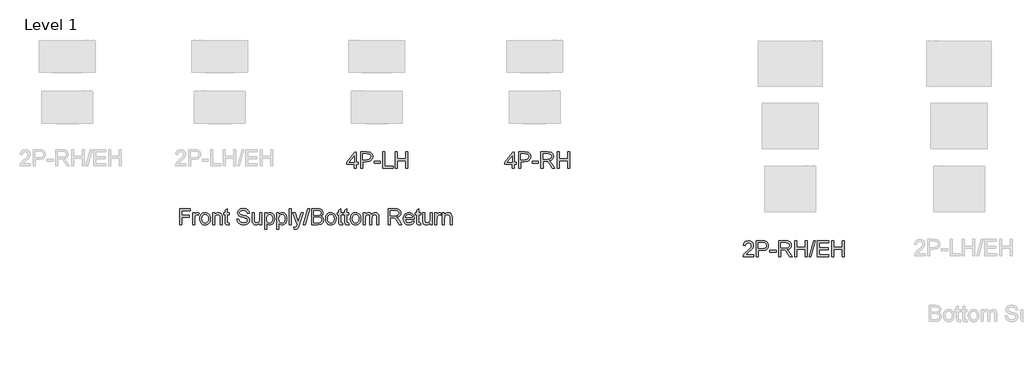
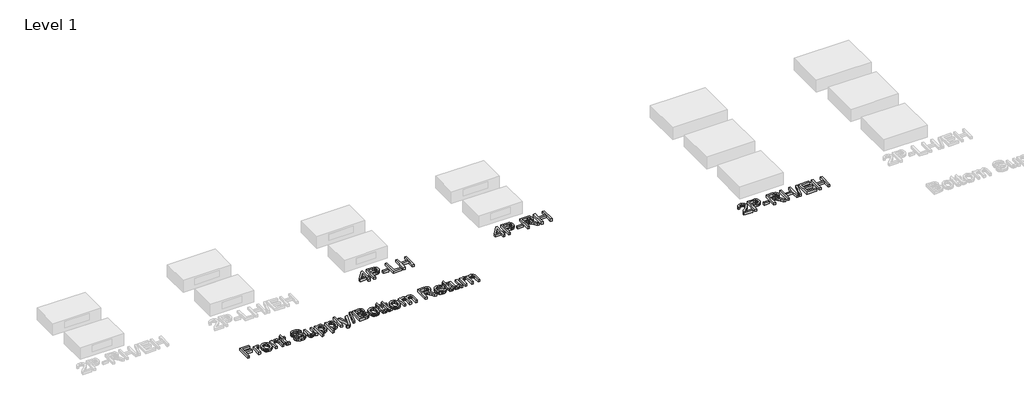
# One storey, part 2 of 3: 4 proxies.
"""IFC4 building model written with IfcOpenShell, lengths in millimetres."""

from ifc_helpers import new_model, si_unit, origin, origin_with_axes, place, context, project, spatial, polyline, outline, extrude, element, save

model = new_model("IFC4")

# Units and contexts
model_context = context("Model", 3, world=origin())
ifc_project = project(units=[si_unit("LENGTHUNIT", "METRE", prefix="MILLI")], contexts=[model_context])

# Site, building, storey
site = spatial("IfcSite", under=ifc_project)
building = spatial("IfcBuilding", under=site)
storey = spatial("IfcBuildingStorey", under=building, Name="Level 1", Elevation=0.0)

# Proxies
placement = place(None, origin())
element("IfcBuildingElementProxy", 1, Name="24\" Arial", ObjectType="24\" Arial", at=placement, inside=storey, context=model_context, shape_type="SweptSolid", body=[
    extrude(outline(polyline([(-5761.3877617, -2953.7595515), (-5761.3877617, -2882.3766388), (-5899.3947262, -2882.3766388), (-5899.3947262, -2844.305752), (-5751.87004, -2653.9513182), (-5723.3168749, -2653.9513182), (-5723.3168749, -2844.305752), (-5685.2459881, -2844.305752), (-5685.2459881, -2882.3766388), (-5723.3168749, -2882.3766388), (-5723.3168749, -2953.7595515), (-5761.3877617, -2953.7595515)]), holes=[polyline([(-5761.3877617, -2844.305752), (-5761.3877617, -2726.6726605), (-5852.5496897, -2844.305752), (-5761.3877617, -2844.305752)])]), origin_with_axes(), (0.0, 0.0, 1.0), 50.8),
    extrude(outline(polyline([(-5637.6573797, -2953.7595515), (-5637.6573797, -2649.1924574), (-5524.783149, -2649.1924574), (-5479.2765422, -2652.0923882), (-5458.9863211, -2657.5111692), (-5442.2838349, -2666.3317922), (-5428.8344762, -2678.953927), (-5418.3036376, -2695.7772436), (-5411.4999538, -2715.6213216), (-5409.2320591, -2737.3057402), (-5410.7633527, -2756.0019289), (-5415.3572336, -2773.2016789), (-5423.0137016, -2788.9049902), (-5433.7327568, -2803.1118628), (-5448.4485115, -2814.8881845), (-5468.0950781, -2823.2998428), (-5492.6724566, -2828.3468378), (-5522.180647, -2830.0291695), (-5599.5864929, -2830.0291695), (-5599.5864929, -2953.7595515), (-5637.6573797, -2953.7595515)]), holes=[polyline([(-5599.5864929, -2791.9582827), (-5519.949931, -2791.9582827), (-5486.1917619, -2788.4634943), (-5463.8846017, -2777.979129), (-5451.4483598, -2761.1558123), (-5447.3029459, -2738.6441698), (-5449.7474389, -2721.5420137), (-5457.0809178, -2707.1167167), (-5468.3925069, -2696.2605654), (-5482.7713306, -2689.8658462), (-5520.8422174, -2687.2633442), (-5599.5864929, -2687.2633442), (-5599.5864929, -2791.9582827)])]), origin_with_axes(), (0.0, 0.0, 1.0), 50.8),
    extrude(outline(polyline([(-5380.6788941, -2863.3411954), (-5380.6788941, -2825.2703087), (-5261.707373, -2825.2703087), (-5261.707373, -2863.3411954), (-5380.6788941, -2863.3411954)])), origin_with_axes(), (0.0, 0.0, 1.0), 50.8),
    extrude(outline(polyline([(-5214.1187645, -2953.7595515), (-5214.1187645, -2649.1924574), (-5176.0478777, -2649.1924574), (-5176.0478777, -2915.6886647), (-5023.7643307, -2915.6886647), (-5023.7643307, -2953.7595515), (-5214.1187645, -2953.7595515)])), origin_with_axes(), (0.0, 0.0, 1.0), 50.8),
    extrude(outline(polyline([(-4980.9345831, -2953.7595515), (-4980.9345831, -2649.1924574), (-4942.8636964, -2649.1924574), (-4942.8636964, -2772.9228394), (-4781.0624276, -2772.9228394), (-4781.0624276, -2649.1924574), (-4742.9915409, -2649.1924574), (-4742.9915409, -2953.7595515), (-4781.0624276, -2953.7595515), (-4781.0624276, -2810.9937261), (-4942.8636964, -2810.9937261), (-4942.8636964, -2953.7595515), (-4980.9345831, -2953.7595515)])), origin_with_axes(), (0.0, 0.0, 1.0), 50.8),
])
element("IfcBuildingElementProxy", 2, Name="24\" Arial", ObjectType="24\" Arial", at=placement, inside=storey, context=model_context, shape_type="SweptSolid", body=[
    extrude(outline(polyline([(-2764.1877617, -2953.7595515), (-2764.1877617, -2882.3766388), (-2902.1947262, -2882.3766388), (-2902.1947262, -2844.305752), (-2754.67004, -2653.9513182), (-2726.1168749, -2653.9513182), (-2726.1168749, -2844.305752), (-2688.0459881, -2844.305752), (-2688.0459881, -2882.3766388), (-2726.1168749, -2882.3766388), (-2726.1168749, -2953.7595515), (-2764.1877617, -2953.7595515)]), holes=[polyline([(-2764.1877617, -2844.305752), (-2764.1877617, -2726.6726605), (-2855.3496897, -2844.305752), (-2764.1877617, -2844.305752)])]), origin_with_axes(), (0.0, 0.0, 1.0), 50.8),
    extrude(outline(polyline([(-2640.4573797, -2953.7595515), (-2640.4573797, -2649.1924574), (-2527.583149, -2649.1924574), (-2482.0765422, -2652.0923882), (-2461.7863211, -2657.5111692), (-2445.0838349, -2666.3317922), (-2431.6344762, -2678.953927), (-2421.1036376, -2695.7772436), (-2414.2999538, -2715.6213216), (-2412.0320591, -2737.3057402), (-2413.5633527, -2756.0019289), (-2418.1572336, -2773.2016789), (-2425.8137016, -2788.9049902), (-2436.5327568, -2803.1118628), (-2451.2485115, -2814.8881845), (-2470.8950781, -2823.2998428), (-2495.4724566, -2828.3468378), (-2524.980647, -2830.0291695), (-2602.3864929, -2830.0291695), (-2602.3864929, -2953.7595515), (-2640.4573797, -2953.7595515)]), holes=[polyline([(-2602.3864929, -2791.9582827), (-2522.749931, -2791.9582827), (-2488.9917619, -2788.4634943), (-2466.6846017, -2777.979129), (-2454.2483598, -2761.1558123), (-2450.1029459, -2738.6441698), (-2452.5474389, -2721.5420137), (-2459.8809178, -2707.1167167), (-2471.1925069, -2696.2605654), (-2485.5713306, -2689.8658462), (-2523.6422174, -2687.2633442), (-2602.3864929, -2687.2633442), (-2602.3864929, -2791.9582827)])]), origin_with_axes(), (0.0, 0.0, 1.0), 50.8),
    extrude(outline(polyline([(-2383.4788941, -2863.3411954), (-2383.4788941, -2825.2703087), (-2264.507373, -2825.2703087), (-2264.507373, -2863.3411954), (-2383.4788941, -2863.3411954)])), origin_with_axes(), (0.0, 0.0, 1.0), 50.8),
    extrude(outline(polyline([(-2216.9187645, -2953.7595515), (-2216.9187645, -2649.1924574), (-2085.6783053, -2649.1924574), (-2050.4051082, -2651.2465751), (-2024.7425793, -2657.4089281), (-2005.9859754, -2668.7855798), (-1991.4305534, -2686.4825935), (-1982.08943, -2708.4272624), (-1978.9757223, -2732.5468794), (-1984.1342531, -2762.5500099), (-1999.6098455, -2787.4224935), (-2011.3327229, -2797.5583094), (-2025.867232, -2805.658597), (-2063.3711451, -2815.752587), (-2041.7331997, -2832.0368139), (-2010.8749614, -2871.2230587), (-1960.0889933, -2953.7595515), (-2004.3315277, -2953.7595515), (-2043.9639157, -2890.6302881), (-2072.5914379, -2848.8415413), (-2092.7050607, -2829.0997045), (-2110.8110391, -2821.8498774), (-2132.8951277, -2820.5114478), (-2178.8478777, -2820.5114478), (-2178.8478777, -2953.7595515), (-2216.9187645, -2953.7595515)]), holes=[polyline([(-2178.8478777, -2782.4405611), (-2093.6345257, -2782.4405611), (-2069.1617121, -2781.0928368), (-2050.1727419, -2777.049664), (-2035.8775701, -2770.0414978), (-2025.4861513, -2759.7987934), (-2019.1564946, -2747.4090249), (-2017.046609, -2733.9596662), (-2021.0711925, -2715.3889553), (-2033.144943, -2700.4245687), (-2053.9184859, -2690.5536503), (-2084.0424469, -2687.2633442), (-2178.8478777, -2687.2633442), (-2178.8478777, -2782.4405611)])]), origin_with_axes(), (0.0, 0.0, 1.0), 50.8),
    extrude(outline(polyline([(-1912.3516704, -2953.7595515), (-1912.3516704, -2649.1924574), (-1874.2807837, -2649.1924574), (-1874.2807837, -2772.9228394), (-1712.479515, -2772.9228394), (-1712.479515, -2649.1924574), (-1674.4086282, -2649.1924574), (-1674.4086282, -2953.7595515), (-1712.479515, -2953.7595515), (-1712.479515, -2810.9937261), (-1874.2807837, -2810.9937261), (-1874.2807837, -2953.7595515), (-1912.3516704, -2953.7595515)])), origin_with_axes(), (0.0, 0.0, 1.0), 50.8),
])
element("IfcBuildingElementProxy", 3, Name="24\" Arial", ObjectType="24\" Arial", at=placement, inside=storey, context=model_context, shape_type="SweptSolid", body=[
    extrude(outline(polyline([(-9072.917714, -4028.4277755), (-9072.917714, -3723.8606814), (-8868.2866976, -3723.8606814), (-8868.2866976, -3761.9315682), (-9034.8468272, -3761.9315682), (-9034.8468272, -3852.3499242), (-8892.0810019, -3852.3499242), (-8892.0810019, -3890.420811), (-9034.8468272, -3890.420811), (-9034.8468272, -4028.4277755), (-9072.917714, -4028.4277755)])), origin_with_axes(), (0.0, 0.0, 1.0), 50.8),
    extrude(outline(polyline([(-8820.6980892, -4028.4277755), (-8820.6980892, -3804.7613158), (-8787.3860633, -3804.7613158), (-8787.3860633, -3837.8502701), (-8775.0799466, -3818.6661123), (-8763.7404735, -3807.3638178), (-8752.3638218, -3801.8427956), (-8739.9461692, -3800.0024549), (-8720.9850831, -3802.9395644), (-8701.7265681, -3811.7508926), (-8714.4416494, -3845.8808478), (-8727.8259455, -3840.0252182), (-8741.2102416, -3838.0733417), (-8752.5775987, -3839.950861), (-8762.7366513, -3845.583419), (-8770.9438273, -3854.5434616), (-8776.4555548, -3866.4034352), (-8781.0842905, -3887.6695946), (-8782.6272024, -3910.8690412), (-8782.6272024, -4028.4277755), (-8820.6980892, -4028.4277755)])), origin_with_axes(), (0.0, 0.0, 1.0), 50.8),
    extrude(outline(polyline([(-8687.4499855, -3916.5945456), (-8685.3912205, -3887.6277686), (-8679.2149256, -3862.6669858), (-8668.9211006, -3841.7121972), (-8654.5097456, -3824.7634028), (-8640.0007968, -3813.9304881), (-8623.9861147, -3806.1926919), (-8606.4656993, -3801.5500142), (-8587.4395506, -3800.0024549), (-8566.4359651, -3801.8869452), (-8547.4446713, -3807.5404161), (-8530.4656692, -3816.9628677), (-8515.4989589, -3830.1542998), (-8503.283465, -3846.6685694), (-8494.5581123, -3866.0595331), (-8489.3229006, -3888.327191), (-8487.5778301, -3913.4715432), (-8490.6636539, -3951.9328053), (-8499.9211254, -3981.210953), (-8515.0806997, -4003.1370326), (-8535.8728319, -4019.54209), (-8560.5687172, -4029.7754997), (-8587.4395506, -4033.1866363), (-8608.7498596, -4031.309117), (-8627.9177517, -4025.6765591), (-8644.943227, -4016.2889625), (-8659.8262855, -4003.1463272), (-8671.9116543, -3986.471725), (-8680.5440605, -3966.4882273), (-8685.7235043, -3943.1958342), (-8687.4499855, -3916.5945456)]), holes=[polyline([(-8649.3790988, -3916.5201884), (-8644.9734346, -3950.9754563), (-8631.7564422, -3975.5226272), (-8611.865891, -3990.217469), (-8587.4395506, -3995.1157496), (-8563.124746, -3990.189585), (-8543.2713734, -3975.4110914), (-8530.054381, -3950.5386077), (-8525.6487168, -3915.3304732), (-8530.0822649, -3881.8790275), (-8543.3829092, -3857.6664641), (-8563.2641657, -3842.9716223), (-8587.4395506, -3838.0733417), (-8611.865891, -3842.953033), (-8631.7564422, -3857.5921069), (-8644.9734346, -3882.0835098), (-8649.3790988, -3916.5201884)])]), origin_with_axes(), (0.0, 0.0, 1.0), 50.8),
    extrude(outline(polyline([(-8444.7480825, -4028.4277755), (-8444.7480825, -3804.7613158), (-8406.6771957, -3804.7613158), (-8406.6771957, -3835.9913401), (-8393.4509086, -3820.2462028), (-8377.5663516, -3808.9996762), (-8359.0235247, -3802.2517602), (-8337.8224278, -3800.0024549), (-8319.0565293, -3801.8149117), (-8301.8707213, -3807.252282), (-8287.5383709, -3815.6360564), (-8277.3328451, -3826.2877254), (-8265.9190148, -3854.2832114), (-8263.9113704, -3891.0900258), (-8263.9113704, -4028.4277755), (-8301.9822571, -4028.4277755), (-8301.9822571, -3896.2206726), (-8306.369332, -3862.5368607), (-8312.4387385, -3852.5079333), (-8321.8728083, -3844.7283111), (-8333.9651481, -3839.737084), (-8348.0093643, -3838.0733417), (-8370.3072299, -3841.809791), (-8389.3147893, -3853.019139), (-8396.9108421, -3862.169722), (-8402.3365941, -3874.6756737), (-8406.6771957, -3909.7536832), (-8406.6771957, -4028.4277755), (-8444.7480825, -4028.4277755)])), origin_with_axes(), (0.0, 0.0, 1.0), 50.8),
    extrude(outline(polyline([(-8130.6632667, -3996.6772508), (-8125.9044059, -4029.5431335), (-8154.3832137, -4033.1866363), (-8172.6564958, -4031.6065458), (-8186.2824528, -4026.8662743), (-8195.9117103, -4019.5606793), (-8202.1948938, -4010.2846185), (-8205.6525036, -3994.3535883), (-8206.8050402, -3967.0830849), (-8206.8050402, -3842.8322025), (-8235.3582053, -3842.8322025), (-8235.3582053, -3804.7613158), (-8206.8050402, -3804.7613158), (-8206.8050402, -3750.4062021), (-8168.7341535, -3728.0246846), (-8168.7341535, -3804.7613158), (-8130.6632667, -3804.7613158), (-8130.6632667, -3842.8322025), (-8168.7341535, -3842.8322025), (-8168.7341535, -3965.9677269), (-8166.726509, -3985.5980279), (-8160.220254, -3992.5504261), (-8147.2449225, -3995.1157496), (-8130.6632667, -3996.6772508)])), origin_with_axes(), (0.0, 0.0, 1.0), 50.8),
    extrude(outline(polyline([(-7983.1385805, -3923.7328369), (-7945.0676938, -3923.7328369), (-7940.6992082, -3944.8595765), (-7932.7987556, -3961.8409022), (-7920.4740496, -3975.3181449), (-7902.8328038, -3985.9326353), (-7881.2692155, -3992.819971), (-7857.1774825, -3995.1157496), (-7835.967091, -3993.37765), (-7817.3963801, -3988.1633513), (-7802.3483417, -3979.909702), (-7791.7059673, -3969.0535507), (-7785.3763106, -3956.5894249), (-7783.266425, -3943.5118523), (-7784.8465155, -3930.768887), (-7789.5867871, -3919.7547267), (-7799.2160446, -3910.3578354), (-7815.4630929, -3902.4666775), (-7870.8963861, -3887.9298448), (-7907.2849411, -3878.3098819), (-7930.5680396, -3869.1546516), (-7949.5198311, -3856.3466238), (-7962.9506005, -3840.8245581), (-7970.9532942, -3822.923062), (-7973.6208588, -3802.976743), (-7970.321258, -3780.6788774), (-7960.4224557, -3759.8867451), (-7944.184702, -3742.2640886), (-7921.8682471, -3729.4746501), (-7895.0810656, -3721.6950279), (-7865.4311318, -3719.1018206), (-7833.3088211, -3721.8158584), (-7805.2017992, -3729.9579719), (-7782.1138884, -3743.3608573), (-7765.0489109, -3761.857211), (-7754.2485275, -3784.2944963), (-7749.9543991, -3809.5201766), (-7788.0252859, -3809.5201766), (-7795.0148627, -3786.8040518), (-7809.5888741, -3770.408289), (-7832.3607668, -3760.4816028), (-7863.9439878, -3757.1727073), (-7896.2707808, -3760.4444242), (-7918.4478159, -3770.2595746), (-7931.274433, -3784.7034609), (-7935.5499721, -3801.8613849), (-7932.5199161, -3816.4911642), (-7923.4297483, -3828.2581912), (-7901.9405173, -3838.7797351), (-7861.2671286, -3849.5243506), (-7819.2924888, -3859.7298764), (-7793.8995047, -3868.6341512), (-7772.1964968, -3882.4460012), (-7757.0555118, -3899.4923895), (-7748.1605316, -3919.587423), (-7745.1955383, -3942.5452087), (-7748.6066749, -3966.0142001), (-7758.8400846, -3988.0889941), (-7775.4775083, -4007.0872589), (-7798.1006866, -4021.3266628), (-7825.3061274, -4030.2216429), (-7855.6903385, -4033.1866363), (-7892.9897693, -4029.9892767), (-7923.6899985, -4020.3971978), (-7948.1442229, -4004.373221), (-7966.7056392, -3981.8801678), (-7978.6213806, -3954.4795394), (-7983.1385805, -3923.7328369)])), origin_with_axes(), (0.0, 0.0, 1.0), 50.8),
    extrude(outline(polyline([(-7550.0822436, -4028.4277755), (-7550.0822436, -3989.9851027), (-7563.8569151, -4008.8857737), (-7579.8994811, -4022.3862529), (-7598.2099418, -4030.4865405), (-7618.7882971, -4033.1866363), (-7637.331124, -4031.2905277), (-7654.5912892, -4025.6022018), (-7669.0723541, -4017.0511238), (-7679.2778798, -4006.5667585), (-7686.1466263, -3993.8330879), (-7690.617353, -3978.5340938), (-7692.848069, -3943.1400663), (-7692.848069, -3804.7613158), (-7654.7771822, -3804.7613158), (-7654.7771822, -3925.2199809), (-7652.472109, -3964.0344397), (-7646.9232029, -3976.9818872), (-7637.4147759, -3986.8249217), (-7624.5788641, -3993.0430426), (-7609.0475038, -3995.1157496), (-7592.6238571, -3992.9965693), (-7577.2598005, -3986.6390287), (-7564.5911924, -3976.6286905), (-7556.2538913, -3963.5511179), (-7551.6251555, -3945.6403271), (-7550.0822436, -3921.1303349), (-7550.0822436, -3804.7613158), (-7512.0113569, -3804.7613158), (-7512.0113569, -4028.4277755), (-7550.0822436, -4028.4277755)])), origin_with_axes(), (0.0, 0.0, 1.0), 50.8),
    extrude(outline(polyline([(-7459.6638876, -4114.0872707), (-7459.6638876, -3804.7613158), (-7421.5930008, -3804.7613158), (-7421.5930008, -3842.0886305), (-7409.1753483, -3823.6759287), (-7395.2705518, -3810.5239988), (-7379.060682, -3802.6328409), (-7359.7278098, -3800.0024549), (-7333.9816291, -3803.6831364), (-7311.4699866, -3814.7251807), (-7293.1409366, -3832.459373), (-7279.9425335, -3856.2164987), (-7271.9677237, -3884.2677526), (-7269.3094538, -3914.88433), (-7272.3116258, -3947.4434893), (-7281.3181417, -3976.563628), (-7296.0408674, -4000.7668968), (-7316.1916688, -4018.5754464), (-7339.6606603, -4029.5338388), (-7364.3379563, -4033.1866363), (-7381.8397824, -4030.7421433), (-7397.4640892, -4023.4086644), (-7410.8390907, -4012.3387362), (-7421.5930008, -3998.6848952), (-7421.5930008, -4114.0872707), (-7459.6638876, -4114.0872707)]), holes=[polyline([(-7421.5930008, -3918.3791184), (-7417.4754708, -3952.5090736), (-7405.1228809, -3976.377735), (-7386.896072, -3990.4312459), (-7365.1558855, -3995.1157496), (-7343.0625022, -3990.2639422), (-7324.3709609, -3975.7085202), (-7311.6279956, -3950.9661616), (-7307.3803405, -3915.5535448), (-7311.5257545, -3881.6094827), (-7323.9619963, -3857.4062139), (-7342.1609212, -3842.9065597), (-7363.5943843, -3838.0733417), (-7385.1114992, -3843.2132832), (-7404.0075229, -3858.6331077), (-7417.1966313, -3883.8494934), (-7421.5930008, -3918.3791184)])]), origin_with_axes(), (0.0, 0.0, 1.0), 50.8),
    extrude(outline(polyline([(-7226.4797062, -4114.0872707), (-7226.4797062, -3804.7613158), (-7188.4088194, -3804.7613158), (-7188.4088194, -3842.0886305), (-7175.9911669, -3823.6759287), (-7162.0863704, -3810.5239988), (-7145.8765006, -3802.6328409), (-7126.5436284, -3800.0024549), (-7100.7974477, -3803.6831364), (-7078.2858052, -3814.7251807), (-7059.9567552, -3832.459373), (-7046.7583521, -3856.2164987), (-7038.7835423, -3884.2677526), (-7036.1252724, -3914.88433), (-7039.1274444, -3947.4434893), (-7048.1339603, -3976.563628), (-7062.856686, -4000.7668968), (-7083.0074874, -4018.5754464), (-7106.4764789, -4029.5338388), (-7131.1537749, -4033.1866363), (-7148.655601, -4030.7421433), (-7164.2799078, -4023.4086644), (-7177.6549093, -4012.3387362), (-7188.4088194, -3998.6848952), (-7188.4088194, -4114.0872707), (-7226.4797062, -4114.0872707)]), holes=[polyline([(-7188.4088194, -3918.3791184), (-7184.2912894, -3952.5090736), (-7171.9386995, -3976.377735), (-7153.7118906, -3990.4312459), (-7131.9717041, -3995.1157496), (-7109.8783208, -3990.2639422), (-7091.1867795, -3975.7085202), (-7078.4438142, -3950.9661616), (-7074.1961591, -3915.5535448), (-7078.3415731, -3881.6094827), (-7090.7778149, -3857.4062139), (-7108.9767398, -3842.9065597), (-7130.4102029, -3838.0733417), (-7151.9273178, -3843.2132832), (-7170.8233415, -3858.6331077), (-7184.0124499, -3883.8494934), (-7188.4088194, -3918.3791184)])]), origin_with_axes(), (0.0, 0.0, 1.0), 50.8),
    extrude(outline(polyline([(-6993.2955248, -4028.4277755), (-6993.2955248, -3723.8606814), (-6955.224638, -3723.8606814), (-6955.224638, -4028.4277755), (-6993.2955248, -4028.4277755)])), origin_with_axes(), (0.0, 0.0, 1.0), 50.8),
    extrude(outline(polyline([(-6898.1183079, -4114.0872707), (-6902.8771687, -4077.4291707), (-6883.5442966, -4080.7752448), (-6865.4754968, -4076.5740629), (-6854.3962739, -4064.8628038), (-6843.9862658, -4036.8301392), (-6841.0119778, -4027.6098463), (-6921.9126121, -3804.7613158), (-6881.7597237, -3804.7613158), (-6838.8556189, -3928.9378409), (-6823.9098216, -3978.608451), (-6808.9640243, -3934.7377026), (-6764.8702042, -3804.7613158), (-6725.0147447, -3804.7613158), (-6802.8667338, -4033.7814939), (-6823.0918924, -4083.452104), (-6833.4461326, -4099.308777), (-6845.175981, -4110.2950534), (-6858.801938, -4116.708362), (-6874.8445041, -4118.8461315), (-6898.1183079, -4114.0872707)])), origin_with_axes(), (0.0, 0.0, 1.0), 50.8),
    extrude(outline(polyline([(-6722.0404566, -4028.4277755), (-6636.3809614, -3723.8606814), (-6602.0279347, -3723.8606814), (-6687.6874299, -4028.4277755), (-6722.0404566, -4028.4277755)])), origin_with_axes(), (0.0, 0.0, 1.0), 50.8),
    extrude(outline(polyline([(-6569.7569096, -4028.4277755), (-6569.7569096, -3723.8606814), (-6453.5366049, -3723.8606814), (-6421.5723033, -3726.1006921), (-6396.6161678, -3732.8207241), (-6377.4877779, -3744.1880811), (-6363.0067131, -3760.370067), (-6353.8886613, -3779.4055103), (-6350.8493107, -3799.3332401), (-6353.4053395, -3817.6715847), (-6361.0734258, -3834.9131607), (-6373.9093376, -3849.9983777), (-6391.9688427, -3861.8676459), (-6370.3959599, -3873.1327618), (-6354.455635, -3890.2720966), (-6344.6126005, -3912.1517029), (-6341.331589, -3937.6376334), (-6343.5715997, -3958.8759089), (-6350.2916317, -3978.5712724), (-6360.3205592, -3995.3202319), (-6372.4872561, -4007.7192951), (-6387.3865802, -4016.6979271), (-6405.6133891, -4023.1855928), (-6454.4288913, -4028.4277755), (-6569.7569096, -4028.4277755)]), holes=[polyline([(-6531.6860228, -3847.5910634), (-6462.1620402, -3847.5910634), (-6421.5630086, -3844.3193465), (-6407.3514886, -3838.6774939), (-6397.1366682, -3830.228657), (-6390.9743152, -3819.1029609), (-6388.9201975, -3805.4305306), (-6390.8348954, -3792.1577703), (-6396.5789892, -3780.5952255), (-6405.8922286, -3771.5701203), (-6418.5143634, -3765.9096784), (-6467.4414014, -3761.9315682), (-6531.6860228, -3761.9315682), (-6531.6860228, -3847.5910634)]), polyline([(-6531.6860228, -3990.3568887), (-6453.6109621, -3990.3568887), (-6425.3552258, -3988.8697447), (-6401.4493858, -3980.5789168), (-6385.6113021, -3963.6626537), (-6380.9546824, -3951.7097337), (-6379.4024758, -3938.0094194), (-6381.2242272, -3922.0969785), (-6386.6894815, -3908.4152535), (-6396.2350871, -3897.7171113), (-6410.2978927, -3890.7554184), (-6430.2163278, -3886.9353172), (-6457.3288221, -3885.6619501), (-6531.6860228, -3885.6619501), (-6531.6860228, -3990.3568887)])]), origin_with_axes(), (0.0, 0.0, 1.0), 50.8),
    extrude(outline(polyline([(-6303.2607023, -3916.5945456), (-6301.2019373, -3887.6277686), (-6295.0256423, -3862.6669858), (-6284.7318173, -3841.7121972), (-6270.3204624, -3824.7634028), (-6255.8115136, -3813.9304881), (-6239.7968315, -3806.1926919), (-6222.2764161, -3801.5500142), (-6203.2502673, -3800.0024549), (-6182.2466818, -3801.8869452), (-6163.255388, -3807.5404161), (-6146.276386, -3816.9628677), (-6131.3096757, -3830.1542998), (-6119.0941818, -3846.6685694), (-6110.368829, -3866.0595331), (-6105.1336174, -3888.327191), (-6103.3885468, -3913.4715432), (-6106.4743706, -3951.9328053), (-6115.7318421, -3981.210953), (-6130.8914164, -4003.1370326), (-6151.6835487, -4019.54209), (-6176.3794339, -4029.7754997), (-6203.2502673, -4033.1866363), (-6224.5605763, -4031.309117), (-6243.7284685, -4025.6765591), (-6260.7539438, -4016.2889625), (-6275.6370022, -4003.1463272), (-6287.722371, -3986.471725), (-6296.3547773, -3966.4882273), (-6301.534221, -3943.1958342), (-6303.2607023, -3916.5945456)]), holes=[polyline([(-6265.1898155, -3916.5201884), (-6260.7841514, -3950.9754563), (-6247.567159, -3975.5226272), (-6227.6766078, -3990.217469), (-6203.2502673, -3995.1157496), (-6178.9354627, -3990.189585), (-6159.0820901, -3975.4110914), (-6145.8650977, -3950.5386077), (-6141.4594336, -3915.3304732), (-6145.8929817, -3881.8790275), (-6159.1936259, -3857.6664641), (-6179.0748825, -3842.9716223), (-6203.2502673, -3838.0733417), (-6227.6766078, -3842.953033), (-6247.567159, -3857.5921069), (-6260.7841514, -3882.0835098), (-6265.1898155, -3916.5201884)])]), origin_with_axes(), (0.0, 0.0, 1.0), 50.8),
    extrude(outline(polyline([(-5979.6581648, -3996.6772508), (-5974.899304, -4029.5431335), (-6003.3781119, -4033.1866363), (-6021.6513939, -4031.6065458), (-6035.277351, -4026.8662743), (-6044.9066085, -4019.5606793), (-6051.1897919, -4010.2846185), (-6054.6474017, -3994.3535883), (-6055.7999384, -3967.0830849), (-6055.7999384, -3842.8322025), (-6084.3531034, -3842.8322025), (-6084.3531034, -3804.7613158), (-6055.7999384, -3804.7613158), (-6055.7999384, -3750.4062021), (-6017.7290516, -3728.0246846), (-6017.7290516, -3804.7613158), (-5979.6581648, -3804.7613158), (-5979.6581648, -3842.8322025), (-6017.7290516, -3842.8322025), (-6017.7290516, -3965.9677269), (-6015.7214072, -3985.5980279), (-6009.2151521, -3992.5504261), (-5996.2398206, -3995.1157496), (-5979.6581648, -3996.6772508)])), origin_with_axes(), (0.0, 0.0, 1.0), 50.8),
    extrude(outline(polyline([(-5860.6866437, -3996.6772508), (-5855.9277829, -4029.5431335), (-5884.4065907, -4033.1866363), (-5902.6798728, -4031.6065458), (-5916.3058298, -4026.8662743), (-5925.9350873, -4019.5606793), (-5932.2182708, -4010.2846185), (-5935.6758806, -3994.3535883), (-5936.8284172, -3967.0830849), (-5936.8284172, -3842.8322025), (-5965.3815823, -3842.8322025), (-5965.3815823, -3804.7613158), (-5936.8284172, -3804.7613158), (-5936.8284172, -3750.4062021), (-5898.7575305, -3728.0246846), (-5898.7575305, -3804.7613158), (-5860.6866437, -3804.7613158), (-5860.6866437, -3842.8322025), (-5898.7575305, -3842.8322025), (-5898.7575305, -3965.9677269), (-5896.7498861, -3985.5980279), (-5890.243631, -3992.5504261), (-5877.2682995, -3995.1157496), (-5860.6866437, -3996.6772508)])), origin_with_axes(), (0.0, 0.0, 1.0), 50.8),
    extrude(outline(polyline([(-5832.1334787, -3916.5945456), (-5830.0747137, -3887.6277686), (-5823.8984187, -3862.6669858), (-5813.6045937, -3841.7121972), (-5799.1932387, -3824.7634028), (-5784.68429, -3813.9304881), (-5768.6696079, -3806.1926919), (-5751.1491924, -3801.5500142), (-5732.1230437, -3800.0024549), (-5711.1194582, -3801.8869452), (-5692.1281644, -3807.5404161), (-5675.1491623, -3816.9628677), (-5660.182452, -3830.1542998), (-5647.9669582, -3846.6685694), (-5639.2416054, -3866.0595331), (-5634.0063937, -3888.327191), (-5632.2613232, -3913.4715432), (-5635.347147, -3951.9328053), (-5644.6046185, -3981.210953), (-5659.7641928, -4003.1370326), (-5680.556325, -4019.54209), (-5705.2522103, -4029.7754997), (-5732.1230437, -4033.1866363), (-5753.4333527, -4031.309117), (-5772.6012448, -4025.6765591), (-5789.6267201, -4016.2889625), (-5804.5097786, -4003.1463272), (-5816.5951474, -3986.471725), (-5825.2275536, -3966.4882273), (-5830.4069974, -3943.1958342), (-5832.1334787, -3916.5945456)]), holes=[polyline([(-5794.0625919, -3916.5201884), (-5789.6569278, -3950.9754563), (-5776.4399353, -3975.5226272), (-5756.5493841, -3990.217469), (-5732.1230437, -3995.1157496), (-5707.8082391, -3990.189585), (-5687.9548665, -3975.4110914), (-5674.7378741, -3950.5386077), (-5670.3322099, -3915.3304732), (-5674.765758, -3881.8790275), (-5688.0664023, -3857.6664641), (-5707.9476588, -3842.9716223), (-5732.1230437, -3838.0733417), (-5756.5493841, -3842.953033), (-5776.4399353, -3857.5921069), (-5789.6569278, -3882.0835098), (-5794.0625919, -3916.5201884)])]), origin_with_axes(), (0.0, 0.0, 1.0), 50.8),
    extrude(outline(polyline([(-5589.4315756, -4028.4277755), (-5589.4315756, -3804.7613158), (-5551.3606888, -3804.7613158), (-5551.3606888, -3841.5681301), (-5539.9096799, -3824.6611616), (-5525.1869542, -3811.4162852), (-5507.6944227, -3802.8559125), (-5487.9339966, -3800.0024549), (-5466.7607837, -3802.9116804), (-5449.7887527, -3811.6393568), (-5437.1108499, -3825.6092159), (-5428.8200221, -3844.2449893), (-5414.9431095, -3824.8888805), (-5399.1143204, -3811.0630885), (-5381.3336548, -3802.7676133), (-5361.6011126, -3800.0024549), (-5332.982885, -3804.6033067), (-5311.8189668, -3818.4058621), (-5298.7413941, -3841.7819071), (-5294.3822032, -3875.1032276), (-5294.3822032, -4028.4277755), (-5332.4530899, -4028.4277755), (-5332.4530899, -3891.4618118), (-5335.985057, -3859.6741085), (-5340.9484001, -3850.9092535), (-5348.7744955, -3844.0219177), (-5358.8406015, -3839.5604857), (-5370.5239767, -3838.0733417), (-5391.1488052, -3841.8841482), (-5407.9628273, -3853.3165678), (-5419.1442913, -3873.1513511), (-5422.871446, -3902.1692487), (-5422.871446, -4028.4277755), (-5460.9423328, -4028.4277755), (-5460.9423328, -3887.2234513), (-5463.1451648, -3865.6970417), (-5469.753661, -3850.3422798), (-5481.3812683, -3841.1405762), (-5498.6414335, -3838.0733417), (-5513.3083913, -3840.1181647), (-5526.8228126, -3846.2526338), (-5537.9763927, -3856.3280345), (-5545.5608272, -3870.1956524), (-5549.9107234, -3889.4355781), (-5551.3606888, -3915.627902), (-5551.3606888, -4028.4277755), (-5589.4315756, -4028.4277755)])), origin_with_axes(), (0.0, 0.0, 1.0), 50.8),
    extrude(outline(polyline([(-5113.5454911, -4028.4277755), (-5113.5454911, -3723.8606814), (-4982.3050318, -3723.8606814), (-4947.0318348, -3725.9147991), (-4921.3693059, -3732.0771521), (-4902.612702, -3743.4538038), (-4888.05728, -3761.1508176), (-4878.7161566, -3783.0954864), (-4875.6024488, -3807.2151034), (-4880.7609796, -3837.2182339), (-4896.236572, -3862.0907175), (-4907.9594495, -3872.2265334), (-4922.4939585, -3880.326821), (-4959.9978716, -3890.420811), (-4938.3599262, -3906.7050379), (-4907.5016879, -3945.8912827), (-4856.7157199, -4028.4277755), (-4900.9582543, -4028.4277755), (-4940.5906423, -3965.2985121), (-4969.2181645, -3923.5097653), (-4989.3317873, -3903.7679285), (-5007.4377657, -3896.5181014), (-5029.5218543, -3895.1796718), (-5075.4746043, -3895.1796718), (-5075.4746043, -4028.4277755), (-5113.5454911, -4028.4277755)]), holes=[polyline([(-5075.4746043, -3857.1087851), (-4990.2612523, -3857.1087851), (-4965.7884386, -3855.7610608), (-4946.7994685, -3851.717888), (-4932.5042967, -3844.7097218), (-4922.1128779, -3834.4670174), (-4915.7832212, -3822.0772489), (-4913.6733356, -3808.6278902), (-4917.6979191, -3790.0571793), (-4929.7716696, -3775.0927927), (-4950.5452125, -3765.2218743), (-4980.6691734, -3761.9315682), (-5075.4746043, -3761.9315682), (-5075.4746043, -3857.1087851)])]), origin_with_axes(), (0.0, 0.0, 1.0), 50.8),
    extrude(outline(polyline([(-4657.1409932, -3961.8037236), (-4619.8136784, -3966.5625845), (-4633.2630371, -3994.6881957), (-4654.7243842, -4015.7126942), (-4683.7143978, -4028.8181508), (-4719.7497562, -4033.1866363), (-4743.3721094, -4031.302146), (-4764.4198445, -4025.6486751), (-4782.8929615, -4016.2262236), (-4798.7914605, -4003.0347914), (-4811.5762517, -3986.4415174), (-4820.7082454, -3966.81354), (-4826.1874417, -3944.1508595), (-4828.0138404, -3918.4534756), (-4826.1688524, -3891.8847184), (-4820.6338882, -3868.4668475), (-4811.408948, -3848.199863), (-4798.4940317, -3831.0837648), (-4782.6373587, -3817.4856917), (-4764.5871482, -3807.7727824), (-4744.3434003, -3801.9450368), (-4721.906115, -3800.0024549), (-4700.1914887, -3801.9403895), (-4680.5542168, -3807.7541931), (-4662.9942991, -3817.4438658), (-4647.5117357, -3831.0094076), (-4634.8733352, -3848.0883272), (-4625.8459063, -3868.3181331), (-4620.429449, -3891.6988254), (-4618.6239632, -3918.230404), (-4618.8470348, -3928.4916977), (-4789.9429536, -3928.4916977), (-4783.3530467, -3956.9890949), (-4768.044758, -3977.9392362), (-4745.9513748, -3990.8216212), (-4719.0061842, -3995.1157496), (-4698.743847, -3993.1266944), (-4681.6788694, -3987.1595291), (-4667.8112515, -3976.8424675), (-4657.1409932, -3961.8037236)]), holes=[polyline([(-4789.9429536, -3890.420811), (-4656.69485, -3890.420811), (-4661.8440861, -3870.3071882), (-4671.9380761, -3855.9190699), (-4694.1337005, -3842.5347737), (-4722.0548294, -3838.0733417), (-4747.7173583, -3841.6331927), (-4768.9370444, -3852.3127456), (-4783.6876541, -3868.9594639), (-4789.9429536, -3890.420811)])]), origin_with_axes(), (0.0, 0.0, 1.0), 50.8),
    extrude(outline(polyline([(-4499.6524421, -3996.6772508), (-4494.8935813, -4029.5431335), (-4523.3723891, -4033.1866363), (-4541.6456712, -4031.6065458), (-4555.2716282, -4026.8662743), (-4564.9008857, -4019.5606793), (-4571.1840692, -4010.2846185), (-4574.641679, -3994.3535883), (-4575.7942156, -3967.0830849), (-4575.7942156, -3842.8322025), (-4604.3473807, -3842.8322025), (-4604.3473807, -3804.7613158), (-4575.7942156, -3804.7613158), (-4575.7942156, -3750.4062021), (-4537.7233289, -3728.0246846), (-4537.7233289, -3804.7613158), (-4499.6524421, -3804.7613158), (-4499.6524421, -3842.8322025), (-4537.7233289, -3842.8322025), (-4537.7233289, -3965.9677269), (-4535.7156844, -3985.5980279), (-4529.2094294, -3992.5504261), (-4516.2340979, -3995.1157496), (-4499.6524421, -3996.6772508)])), origin_with_axes(), (0.0, 0.0, 1.0), 50.8),
    extrude(outline(polyline([(-4318.81573, -4028.4277755), (-4318.81573, -3989.9851027), (-4332.5904014, -4008.8857737), (-4348.6329675, -4022.3862529), (-4366.9434282, -4030.4865405), (-4387.5217834, -4033.1866363), (-4406.0646104, -4031.2905277), (-4423.3247756, -4025.6022018), (-4437.8058404, -4017.0511238), (-4448.0113662, -4006.5667585), (-4454.8801126, -3993.8330879), (-4459.3508393, -3978.5340938), (-4461.5815553, -3943.1400663), (-4461.5815553, -3804.7613158), (-4423.5106686, -3804.7613158), (-4423.5106686, -3925.2199809), (-4421.2055954, -3964.0344397), (-4415.6566893, -3976.9818872), (-4406.1482622, -3986.8249217), (-4393.3123505, -3993.0430426), (-4377.7809902, -3995.1157496), (-4361.3573435, -3992.9965693), (-4345.9932869, -3986.6390287), (-4333.3246788, -3976.6286905), (-4324.9873777, -3963.5511179), (-4320.3586419, -3945.6403271), (-4318.81573, -3921.1303349), (-4318.81573, -3804.7613158), (-4280.7448432, -3804.7613158), (-4280.7448432, -4028.4277755), (-4318.81573, -4028.4277755)])), origin_with_axes(), (0.0, 0.0, 1.0), 50.8),
    extrude(outline(polyline([(-4228.3973739, -4028.4277755), (-4228.3973739, -3804.7613158), (-4195.085348, -3804.7613158), (-4195.085348, -3837.8502701), (-4182.7792313, -3818.6661123), (-4171.4397582, -3807.3638178), (-4160.0631065, -3801.8427956), (-4147.645454, -3800.0024549), (-4128.6843678, -3802.9395644), (-4109.4258528, -3811.7508926), (-4122.1409341, -3845.8808478), (-4135.5252303, -3840.0252182), (-4148.9095264, -3838.0733417), (-4160.2768835, -3839.950861), (-4170.435936, -3845.583419), (-4178.643112, -3854.5434616), (-4184.1548395, -3866.4034352), (-4188.7835753, -3887.6695946), (-4190.3264872, -3910.8690412), (-4190.3264872, -4028.4277755), (-4228.3973739, -4028.4277755)])), origin_with_axes(), (0.0, 0.0, 1.0), 50.8),
    extrude(outline(polyline([(-4085.6315486, -4028.4277755), (-4085.6315486, -3804.7613158), (-4047.5606618, -3804.7613158), (-4047.5606618, -3835.9913401), (-4034.3343748, -3820.2462028), (-4018.4498178, -3808.9996762), (-3999.9069908, -3802.2517602), (-3978.705894, -3800.0024549), (-3959.9399955, -3801.8149117), (-3942.7541875, -3807.252282), (-3928.421837, -3815.6360564), (-3918.2163112, -3826.2877254), (-3906.8024809, -3854.2832114), (-3904.7948365, -3891.0900258), (-3904.7948365, -4028.4277755), (-3942.8657233, -4028.4277755), (-3942.8657233, -3896.2206726), (-3947.2527981, -3862.5368607), (-3953.3222046, -3852.5079333), (-3962.7562744, -3844.7283111), (-3974.8486142, -3839.737084), (-3988.8928305, -3838.0733417), (-4011.1906961, -3841.809791), (-4030.1982555, -3853.019139), (-4037.7943083, -3862.169722), (-4043.2200603, -3874.6756737), (-4047.5606618, -3909.7536832), (-4047.5606618, -4028.4277755), (-4085.6315486, -4028.4277755)])), origin_with_axes(), (0.0, 0.0, 1.0), 50.8),
])
element("IfcBuildingElementProxy", 4, Name="24\" Arial", ObjectType="24\" Arial", at=placement, inside=storey, context=model_context, shape_type="SweptSolid", body=[
    extrude(outline(polyline([(1816.3422852, -4600.7069819), (1816.3422852, -4638.7778686), (1616.4701297, -4638.7778686), (1620.5597758, -4612.5297768), (1629.9473723, -4592.016484), (1643.6848652, -4572.1166382), (1663.5568271, -4551.2873273), (1691.3478308, -4527.9856396), (1732.4301842, -4491.4948433), (1757.0795962, -4464.5589474), (1769.4043023, -4442.6979304), (1773.5125376, -4421.431771), (1769.6366685, -4402.3684436), (1758.0090613, -4386.5210652), (1740.1354491, -4375.8415123), (1717.5215655, -4372.2816613), (1693.7737345, -4375.7578604), (1675.3238541, -4386.1864578), (1663.4174073, -4402.7495243), (1659.2998773, -4424.6291306), (1621.2289906, -4419.8702698), (1624.5030311, -4400.2167321), (1630.4585781, -4383.0448661), (1639.0956317, -4368.3546716), (1650.4141918, -4356.1461488), (1664.1540083, -4346.5494225), (1680.054831, -4339.6946181), (1718.3394947, -4334.2107745), (1738.7435753, -4335.7350972), (1756.9029979, -4340.308065), (1772.8177625, -4347.9296781), (1786.4878691, -4358.5999364), (1797.4671745, -4371.5287946), (1805.3095355, -4385.9262076), (1810.0149522, -4401.7921753), (1811.5834244, -4419.1266977), (1809.891798, -4437.3349173), (1804.8169191, -4455.2271187), (1795.8104032, -4473.4260436), (1782.3238659, -4492.5544334), (1760.8253402, -4515.3913887), (1727.7828592, -4544.7160097), (1683.986468, -4581.3369311), (1666.8099546, -4600.7069819), (1816.3422852, -4600.7069819)])), origin_with_axes(), (0.0, 0.0, 1.0), 50.8),
    extrude(outline(polyline([(1868.6897545, -4638.7778686), (1868.6897545, -4334.2107745), (1981.5639852, -4334.2107745), (2027.070592, -4337.1107054), (2047.3608131, -4342.5294864), (2064.0632993, -4351.3501093), (2077.512658, -4363.9722441), (2088.0434966, -4380.7955608), (2094.8471804, -4400.6396387), (2097.115075, -4422.3240574), (2095.5837814, -4441.020246), (2090.9899006, -4458.219996), (2083.3334326, -4473.9233073), (2072.6143774, -4488.13018), (2057.8986227, -4499.9065017), (2038.252056, -4508.31816), (2013.6746775, -4513.365155), (1984.1664872, -4515.0474866), (1906.7606413, -4515.0474866), (1906.7606413, -4638.7778686), (1868.6897545, -4638.7778686)]), holes=[polyline([(1906.7606413, -4476.9765999), (1986.3972032, -4476.9765999), (2020.1553723, -4473.4818115), (2042.4625325, -4462.9974462), (2054.8987743, -4446.1741295), (2059.0441883, -4423.662487), (2056.5996953, -4406.5603308), (2049.2662164, -4392.1350339), (2037.9546272, -4381.2788826), (2023.5758036, -4374.8841633), (1985.5049168, -4372.2816613), (1906.7606413, -4372.2816613), (1906.7606413, -4476.9765999)])]), origin_with_axes(), (0.0, 0.0, 1.0), 50.8),
    extrude(outline(polyline([(2125.6682401, -4548.3595126), (2125.6682401, -4510.2886258), (2244.6397612, -4510.2886258), (2244.6397612, -4548.3595126), (2125.6682401, -4548.3595126)])), origin_with_axes(), (0.0, 0.0, 1.0), 50.8),
    extrude(outline(polyline([(2292.2283697, -4638.7778686), (2292.2283697, -4334.2107745), (2423.4688289, -4334.2107745), (2458.742026, -4336.2648922), (2484.4045549, -4342.4272452), (2503.1611588, -4353.8038969), (2517.7165808, -4371.5009107), (2527.0577041, -4393.4455796), (2530.1714119, -4417.5651965), (2525.0128811, -4447.568327), (2509.5372887, -4472.4408106), (2497.8144113, -4482.5766266), (2483.2799022, -4490.6769141), (2445.7759891, -4500.7709041), (2467.4139345, -4517.0551311), (2498.2721728, -4556.2413758), (2549.0581409, -4638.7778686), (2504.8156065, -4638.7778686), (2465.1832185, -4575.6486052), (2436.5556962, -4533.8598584), (2416.4420735, -4514.1180216), (2398.3360951, -4506.8681946), (2376.2520065, -4505.529765), (2330.2992564, -4505.529765), (2330.2992564, -4638.7778686), (2292.2283697, -4638.7778686)]), holes=[polyline([(2330.2992564, -4467.4588782), (2415.5126084, -4467.4588782), (2439.9854221, -4466.1111539), (2458.9743923, -4462.0679811), (2473.2695641, -4455.059815), (2483.6609829, -4444.8171106), (2489.9906396, -4432.427342), (2492.1005252, -4418.9779833), (2488.0759417, -4400.4072725), (2476.0021912, -4385.4428858), (2455.2286483, -4375.5719674), (2425.1046873, -4372.2816613), (2330.2992564, -4372.2816613), (2330.2992564, -4467.4588782)])]), origin_with_axes(), (0.0, 0.0, 1.0), 50.8),
    extrude(outline(polyline([(2596.7954638, -4638.7778686), (2596.7954638, -4334.2107745), (2634.8663505, -4334.2107745), (2634.8663505, -4457.9411565), (2796.6676192, -4457.9411565), (2796.6676192, -4334.2107745), (2834.738506, -4334.2107745), (2834.738506, -4638.7778686), (2796.6676192, -4638.7778686), (2796.6676192, -4496.0120433), (2634.8663505, -4496.0120433), (2634.8663505, -4638.7778686), (2596.7954638, -4638.7778686)])), origin_with_axes(), (0.0, 0.0, 1.0), 50.8),
    extrude(outline(polyline([(2868.0505319, -4638.7778686), (2953.7100271, -4334.2107745), (2988.0630538, -4334.2107745), (2902.4035586, -4638.7778686), (2868.0505319, -4638.7778686)])), origin_with_axes(), (0.0, 0.0, 1.0), 50.8),
    extrude(outline(polyline([(3020.3340789, -4638.7778686), (3020.3340789, -4334.2107745), (3239.2416778, -4334.2107745), (3239.2416778, -4372.2816613), (3058.4049657, -4372.2816613), (3058.4049657, -4462.7000174), (3229.7239561, -4462.7000174), (3229.7239561, -4500.7709041), (3058.4049657, -4500.7709041), (3058.4049657, -4600.7069819), (3244.0005386, -4600.7069819), (3244.0005386, -4638.7778686), (3020.3340789, -4638.7778686)])), origin_with_axes(), (0.0, 0.0, 1.0), 50.8),
    extrude(outline(polyline([(3301.1068688, -4638.7778686), (3301.1068688, -4334.2107745), (3339.1777555, -4334.2107745), (3339.1777555, -4457.9411565), (3500.9790243, -4457.9411565), (3500.9790243, -4334.2107745), (3539.049911, -4334.2107745), (3539.049911, -4638.7778686), (3500.9790243, -4638.7778686), (3500.9790243, -4496.0120433), (3339.1777555, -4496.0120433), (3339.1777555, -4638.7778686), (3301.1068688, -4638.7778686)])), origin_with_axes(), (0.0, 0.0, 1.0), 50.8),
])

save(model, "model.ifc")
